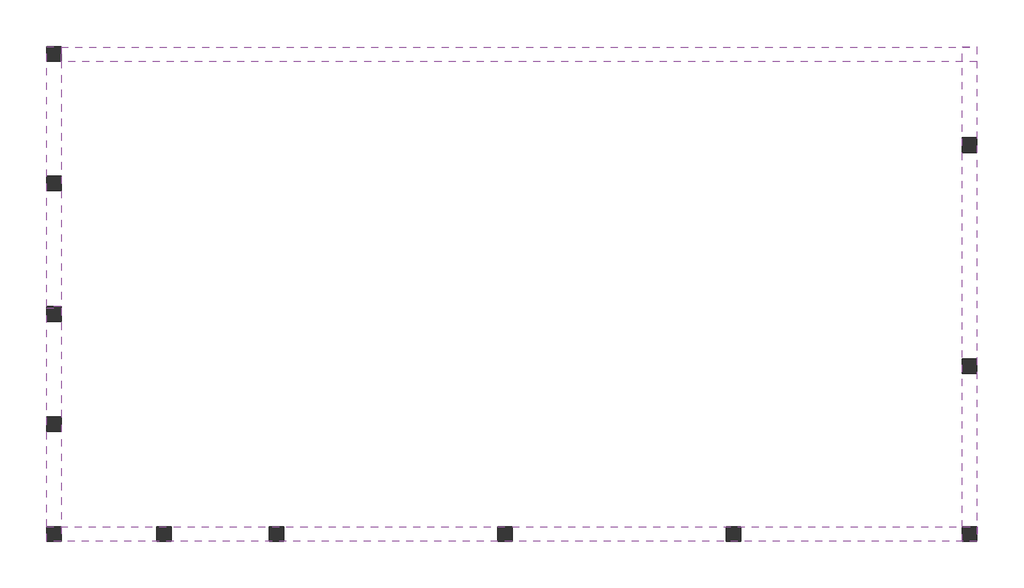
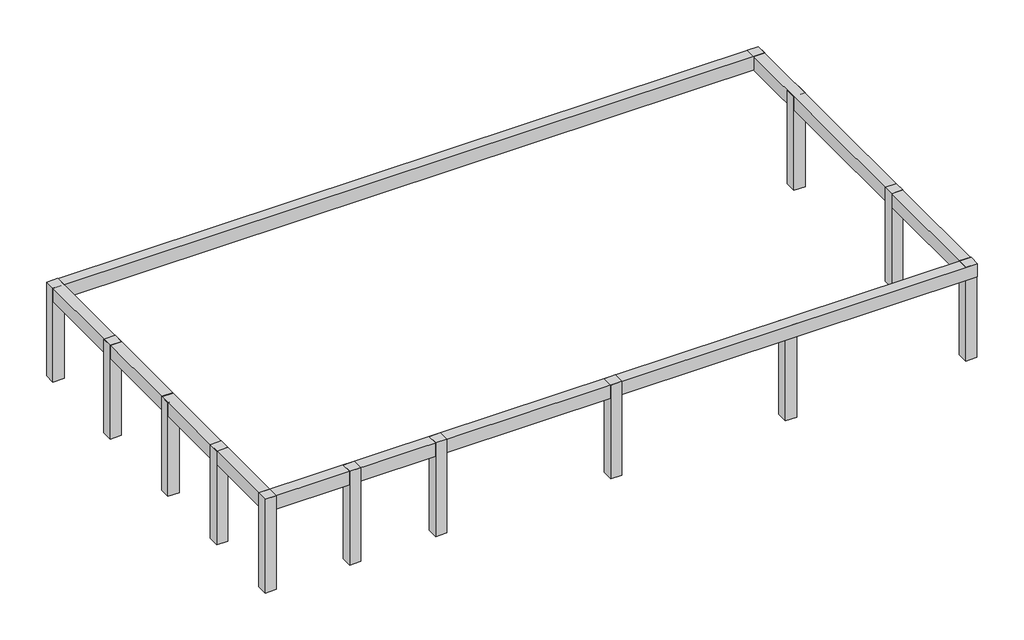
# One storey: 12 columns, 5 beams.
"""IFC4 building model written with IfcOpenShell, lengths in millimetres."""

from ifc_helpers import new_model, si_unit, origin, place, context, project, spatial, transform, mapped, element, save
from components import beam_184x235_584ee816, beam_184x235_2aa7d092, beam_184x235_b0d9afbd, beam_184x235_d860abd9, beam_184x235_910cab54, poteau_bois_191_x_191mm_e3dd8878

model = new_model("IFC4")

# Units and contexts
model_context = context("Model", 3, world=origin())
ifc_project = project(units=[si_unit("LENGTHUNIT", "METRE", prefix="MILLI")], contexts=[model_context])

# Site, building, storey
site = spatial("IfcSite", under=ifc_project)
building = spatial("IfcBuilding", under=site)
storey = spatial("IfcBuildingStorey", under=building, Name="1 - Arase sup GC", Elevation=3900.0)

# Beams
placement = place(None, origin())
beam_184x235_shape = beam_184x235_584ee816(model_context)
element("IfcBeam", 1, ObjectType="Poutre - Bois d'oeuvre : 184x235", at=placement, inside=storey, context=model_context, shape_type="MappedRepresentation", body=[
    mapped(beam_184x235_shape, transform((-5078.2146801, 760.638045, 5479.35), x_axis=(0.0, -1.0, 0.0), y_axis=(1.0, 0.0, 0.0), z_axis=(0.0, 0.0, 1.0))),
])
beam_184x235_2_shape = beam_184x235_2aa7d092(model_context)
element("IfcBeam", 2, ObjectType="Poutre - Bois d'oeuvre : 184x235", at=placement, inside=storey, context=model_context, shape_type="MappedRepresentation", body=[
    mapped(beam_184x235_2_shape, transform((-5077.9646801, 4019.4769674, 5479.35), x_axis=(0.0, -1.0, 0.0), y_axis=(1.0, 0.0, 0.0), z_axis=(0.0, 0.0, 1.0))),
])
beam_184x235_3_shape = beam_184x235_b0d9afbd(model_context)
element("IfcBeam", 3, ObjectType="Poutre - Bois d'oeuvre : 184x235", at=placement, inside=storey, context=model_context, shape_type="MappedRepresentation", body=[
    mapped(beam_184x235_3_shape, transform((936.2853199, -676.1841102, 5479.35), x_axis=(1.0, 0.0, 0.0), y_axis=(0.0, 1.0, 0.0), z_axis=(0.0, 0.0, 1.0))),
])
beam_184x235_4_shape = beam_184x235_d860abd9(model_context)
element("IfcBeam", 4, ObjectType="Poutre - Bois d'oeuvre : 184x235", at=placement, inside=storey, context=model_context, shape_type="MappedRepresentation", body=[
    mapped(beam_184x235_4_shape, transform((6941.7853199, 2476.0658898, 5479.35), x_axis=(0.0, -1.0, 0.0), y_axis=(1.0, 0.0, 0.0), z_axis=(0.0, 0.0, 1.0))),
])
beam_184x235_5_shape = beam_184x235_910cab54(model_context)
element("IfcBeam", 5, ObjectType="Poutre - Bois d'oeuvre : 184x235", at=placement, inside=storey, context=model_context, shape_type="MappedRepresentation", body=[
    mapped(beam_184x235_5_shape, transform((979.6603199, 5626.0658898, 5479.35), x_axis=(-1.0, 0.0, 0.0), y_axis=(0.0, -1.0, 0.0), z_axis=(0.0, 0.0, 1.0))),
])

# Columns
poteau_bois_191_x_191mm_shape = poteau_bois_191_x_191mm_e3dd8878(model_context)
element("IfcColumn", 6, ObjectType="Poteau Bois : 191 x 191mm", at=placement, inside=storey, context=model_context, shape_type="MappedRepresentation", body=[
    mapped(poteau_bois_191_x_191mm_shape, transform((-5078.2146801, -676.1841102, 0.0), x_axis=(1.0, 0.0, 0.0), y_axis=(0.0, 1.0, 0.0), z_axis=(0.0, 0.0, 1.0))),
])
element("IfcColumn", 7, ObjectType="Poteau Bois : 191 x 191mm", at=placement, inside=storey, context=model_context, shape_type="MappedRepresentation", body=[
    mapped(poteau_bois_191_x_191mm_shape, transform((6941.7853199, -676.1841102, 0.0), x_axis=(1.0, 0.0, 0.0), y_axis=(0.0, 1.0, 0.0), z_axis=(0.0, 0.0, 1.0))),
])
element("IfcColumn", 8, ObjectType="Poteau Bois : 191 x 191mm", at=placement, inside=storey, context=model_context, shape_type="MappedRepresentation", body=[
    mapped(poteau_bois_191_x_191mm_shape, transform((3846.2853199, -676.1841102, 0.0), x_axis=(1.0, 0.0, 0.0), y_axis=(0.0, 1.0, 0.0), z_axis=(0.0, 0.0, 1.0))),
])
element("IfcColumn", 9, ObjectType="Poteau Bois : 191 x 191mm", at=placement, inside=storey, context=model_context, shape_type="MappedRepresentation", body=[
    mapped(poteau_bois_191_x_191mm_shape, transform((846.2853199, -676.1841102, 0.0), x_axis=(1.0, 0.0, 0.0), y_axis=(0.0, 1.0, 0.0), z_axis=(0.0, 0.0, 1.0))),
])
element("IfcColumn", 10, ObjectType="Poteau Bois : 191 x 191mm", at=placement, inside=storey, context=model_context, shape_type="MappedRepresentation", body=[
    mapped(poteau_bois_191_x_191mm_shape, transform((-2153.7146801, -676.1841102, 0.0), x_axis=(1.0, 0.0, 0.0), y_axis=(0.0, 1.0, 0.0), z_axis=(0.0, 0.0, 1.0))),
])
element("IfcColumn", 11, ObjectType="Poteau Bois : 191 x 191mm", at=placement, inside=storey, context=model_context, shape_type="MappedRepresentation", body=[
    mapped(poteau_bois_191_x_191mm_shape, transform((-3632.7146801, -676.1841102, 0.0), x_axis=(1.0, 0.0, 0.0), y_axis=(0.0, 1.0, 0.0), z_axis=(0.0, 0.0, 1.0))),
])
element("IfcColumn", 12, ObjectType="Poteau Bois : 191 x 191mm", at=placement, inside=storey, context=model_context, shape_type="MappedRepresentation", body=[
    mapped(poteau_bois_191_x_191mm_shape, transform((-5078.2146801, 769.3158898, 0.0), x_axis=(1.0, 0.0, 0.0), y_axis=(0.0, 1.0, 0.0), z_axis=(0.0, 0.0, 1.0))),
])
element("IfcColumn", 13, ObjectType="Poteau Bois : 191 x 191mm", at=placement, inside=storey, context=model_context, shape_type="MappedRepresentation", body=[
    mapped(poteau_bois_191_x_191mm_shape, transform((-5078.2146801, 5632.8158898, 0.0), x_axis=(1.0, 0.0, 0.0), y_axis=(0.0, 1.0, 0.0), z_axis=(0.0, 0.0, 1.0))),
])
element("IfcColumn", 14, ObjectType="Poteau Bois : 191 x 191mm", at=placement, inside=storey, context=model_context, shape_type="MappedRepresentation", body=[
    mapped(poteau_bois_191_x_191mm_shape, transform((-5078.2146801, 2214.8158898, 0.0), x_axis=(1.0, 0.0, 0.0), y_axis=(0.0, 1.0, 0.0), z_axis=(0.0, 0.0, 1.0))),
])
element("IfcColumn", 15, ObjectType="Poteau Bois : 191 x 191mm", at=placement, inside=storey, context=model_context, shape_type="MappedRepresentation", body=[
    mapped(poteau_bois_191_x_191mm_shape, transform((-5078.2146801, 3928.3158898, 0.0), x_axis=(1.0, 0.0, 0.0), y_axis=(0.0, 1.0, 0.0), z_axis=(0.0, 0.0, 1.0))),
])
element("IfcColumn", 16, ObjectType="Poteau Bois : 191 x 191mm", at=placement, inside=storey, context=model_context, shape_type="MappedRepresentation", body=[
    mapped(poteau_bois_191_x_191mm_shape, transform((6941.7853199, 4432.8158898, 0.0), x_axis=(1.0, 0.0, 0.0), y_axis=(0.0, 1.0, 0.0), z_axis=(0.0, 0.0, 1.0))),
])
element("IfcColumn", 17, ObjectType="Poteau Bois : 191 x 191mm", at=placement, inside=storey, context=model_context, shape_type="MappedRepresentation", body=[
    mapped(poteau_bois_191_x_191mm_shape, transform((6941.7853199, 1528.3158898, 0.0), x_axis=(1.0, 0.0, 0.0), y_axis=(0.0, 1.0, 0.0), z_axis=(0.0, 0.0, 1.0))),
])

save(model, "model.ifc")
